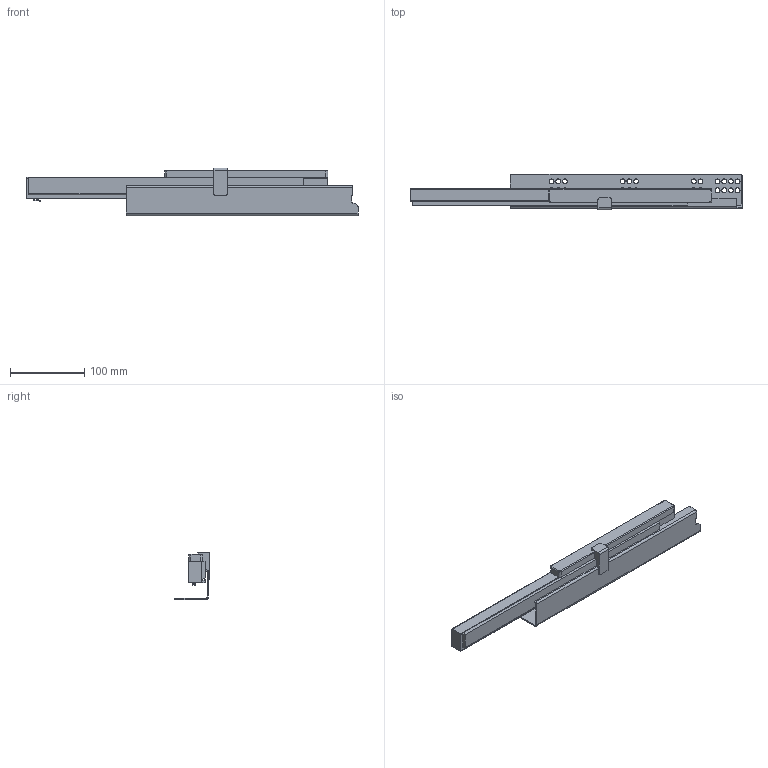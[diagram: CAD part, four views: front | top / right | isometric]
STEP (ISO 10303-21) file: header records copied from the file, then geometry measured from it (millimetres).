
FILE_DESCRIPTION (( 'STEP AP203' ), '1' );
FILE_NAME ('HD10450H-R(敕磁).STEP', '2021-04-02T00:37:35', ( 'Users' ), ( 'Microsoft' ), 'SwSTEP 2.0', 'SolidWorks 2018', '' );
FILE_SCHEMA (( 'CONFIG_CONTROL_DESIGN' ));
Length unit declared in the file: millimetre
Products named in the file (1): HD10450H-R(敕磁)
Bounding box: 448 x 47.8 x 64.23 mm (x, y, z)
Volume: 337703.2 mm3; surface area: 102029.7 mm2
Topology: 1 solids, 1 shells, 240 faces, 642 edges, 404 vertices
Faces by surface type: cylinder 103, plane 77, cone 48, torus 12
Entity records: 7692 total; most frequent: DIRECTION 1408, CARTESIAN_POINT 1290, ORIENTED_EDGE 1284, EDGE_CURVE 642, AXIS2_PLACEMENT_3D 526, VERTEX_POINT 404, VECTOR 356, LINE 356
